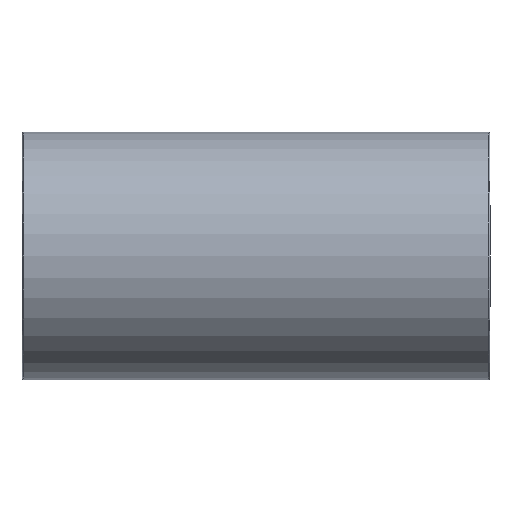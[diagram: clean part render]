
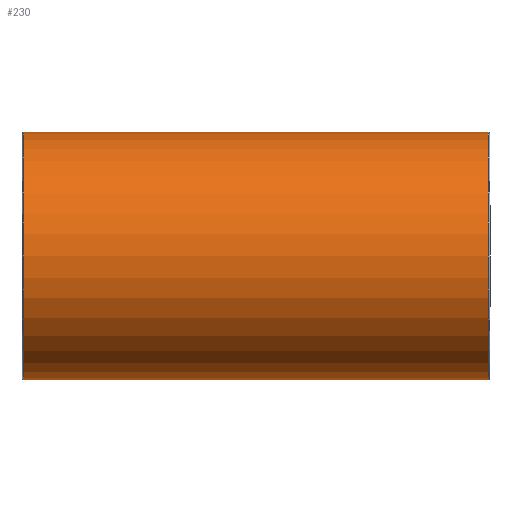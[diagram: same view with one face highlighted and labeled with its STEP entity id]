
A CAD part, front view. The second image highlights one B-rep face of the part: STEP entity #230.
In plain terms, the highlighted cylindrical face has radius 45 mm (diameter 90 mm), a full revolution.
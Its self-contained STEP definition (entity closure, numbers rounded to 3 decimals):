
#26=FACE_BOUND('',#93,.T.);
#27=FACE_BOUND('',#94,.T.);
#46=CIRCLE('',#255,45.);
#47=CIRCLE('',#256,45.);
#63=CYLINDRICAL_SURFACE('',#254,45.);
#72=FACE_OUTER_BOUND('',#92,.T.);
#92=EDGE_LOOP('',(#184));
#93=EDGE_LOOP('',(#185,#186));
#94=EDGE_LOOP('',(#187));
#130=ELLIPSE('',#250,66.242,45.);
#132=ELLIPSE('',#252,66.242,45.);
#136=VERTEX_POINT('',#436);
#137=VERTEX_POINT('',#437);
#138=VERTEX_POINT('',#503);
#139=VERTEX_POINT('',#505);
#157=EDGE_CURVE('',#136,#137,#130,.T.);
#159=EDGE_CURVE('',#137,#136,#132,.T.);
#161=EDGE_CURVE('',#138,#138,#46,.T.);
#162=EDGE_CURVE('',#139,#139,#47,.T.);
#184=ORIENTED_EDGE('',*,*,#161,.F.);
#185=ORIENTED_EDGE('',*,*,#159,.F.);
#186=ORIENTED_EDGE('',*,*,#157,.F.);
#187=ORIENTED_EDGE('',*,*,#162,.F.);
#230=ADVANCED_FACE('',(#72,#26,#27),#63,.T.);
#250=AXIS2_PLACEMENT_3D('',#438,#293,#294);
#252=AXIS2_PLACEMENT_3D('',#500,#297,#298);
#254=AXIS2_PLACEMENT_3D('',#502,#301,#302);
#255=AXIS2_PLACEMENT_3D('',#504,#303,#304);
#256=AXIS2_PLACEMENT_3D('',#506,#305,#306);
#293=DIRECTION('center_axis',(-0.679,0.734,0.));
#294=DIRECTION('ref_axis',(0.734,0.679,0.));
#297=DIRECTION('center_axis',(0.679,0.734,0.));
#298=DIRECTION('ref_axis',(-0.734,0.679,0.));
#301=DIRECTION('center_axis',(1.,0.,0.));
#302=DIRECTION('ref_axis',(0.,1.,0.));
#303=DIRECTION('center_axis',(-1.,0.,0.));
#304=DIRECTION('ref_axis',(0.,-1.,0.));
#305=DIRECTION('center_axis',(1.,0.,0.));
#306=DIRECTION('ref_axis',(0.,-1.,0.));
#436=CARTESIAN_POINT('',(0.,0.,45.));
#437=CARTESIAN_POINT('',(0.,0.,-45.));
#438=CARTESIAN_POINT('Origin',(0.,0.,0.));
#500=CARTESIAN_POINT('Origin',(0.,0.,0.));
#502=CARTESIAN_POINT('Origin',(0.,0.,
0.));
#503=CARTESIAN_POINT('',(-84.278,45.,0.));
#504=CARTESIAN_POINT('Origin',(-84.278,0.,0.));
#505=CARTESIAN_POINT('',(84.278,45.,0.));
#506=CARTESIAN_POINT('Origin',(84.278,0.,0.));
